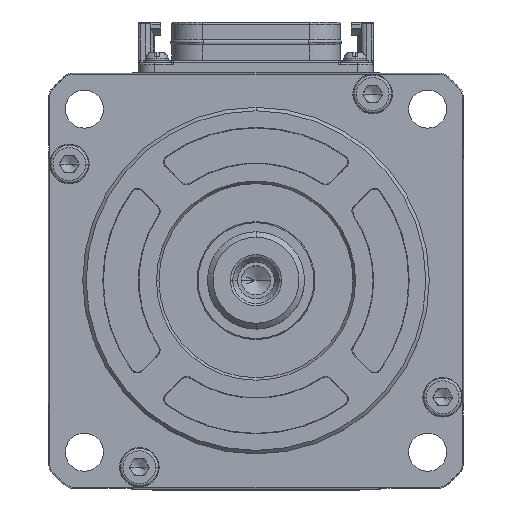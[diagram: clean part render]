
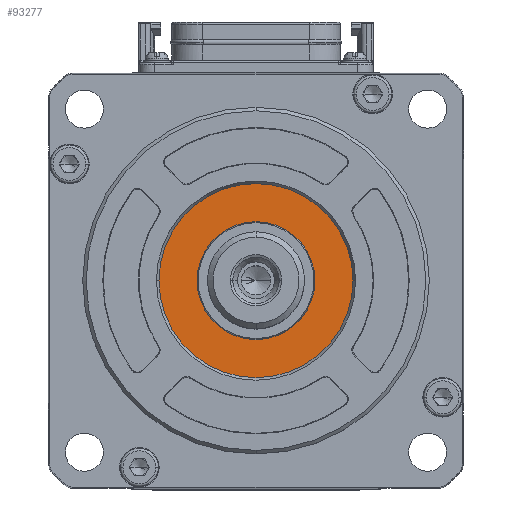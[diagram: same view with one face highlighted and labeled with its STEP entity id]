
A CAD part, top view. The second image highlights one B-rep face of the part: STEP entity #93277.
In plain terms, the highlighted planar face has unit normal (0, 0, 1).
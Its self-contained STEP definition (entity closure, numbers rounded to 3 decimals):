
#2523 = DIRECTION ( 'NONE',  ( 0., 0., 1. ) ) ;
#3001 = ORIENTED_EDGE ( 'NONE', *, *, #34028, .F. ) ;
#5702 = ORIENTED_EDGE ( 'NONE', *, *, #41449, .F. ) ;
#9406 = DIRECTION ( 'NONE',  ( 0., 1., 0. ) ) ;
#10617 = DIRECTION ( 'NONE',  ( 0., 0., 1. ) ) ;
#10918 = DIRECTION ( 'NONE',  ( 0., 1., 0. ) ) ;
#11969 = CARTESIAN_POINT ( 'NONE',  ( 0., 0., 44.347 ) ) ;
#12742 = CIRCLE ( 'NONE', #33199, 14. ) ;
#14528 = EDGE_LOOP ( 'NONE', ( #77860, #5702 ) ) ;
#15218 = CARTESIAN_POINT ( 'NONE',  ( 8.5, 0., 44.347 ) ) ;
#21716 = FACE_OUTER_BOUND ( 'NONE', #43934, .T. ) ;
#21913 = DIRECTION ( 'NONE',  ( 0., 0., -1. ) ) ;
#26629 = DIRECTION ( 'NONE',  ( 0., 1., 0. ) ) ;
#29416 = DIRECTION ( 'NONE',  ( 0., 1., 0. ) ) ;
#30073 = AXIS2_PLACEMENT_3D ( 'NONE', #11969, #56726, #26629 ) ;
#31464 = CIRCLE ( 'NONE', #48967, 8.5 ) ;
#31630 = CARTESIAN_POINT ( 'NONE',  ( -8.5, 0., 44.347 ) ) ;
#33199 = AXIS2_PLACEMENT_3D ( 'NONE', #66743, #21913, #29416 ) ;
#34028 = EDGE_CURVE ( 'NONE', #59737, #89929, #82070, .T. ) ;
#35997 = ORIENTED_EDGE ( 'NONE', *, *, #75910, .F. ) ;
#37160 = CIRCLE ( 'NONE', #30073, 8.5 ) ;
#39850 = DIRECTION ( 'NONE',  ( 0., 1., 0. ) ) ;
#40457 = FACE_BOUND ( 'NONE', #14528, .T. ) ;
#41449 = EDGE_CURVE ( 'NONE', #87321, #79188, #37160, .T. ) ;
#43934 = EDGE_LOOP ( 'NONE', ( #3001, #35997 ) ) ;
#47251 = CARTESIAN_POINT ( 'NONE',  ( 0., 0., 44.347 ) ) ;
#48967 = AXIS2_PLACEMENT_3D ( 'NONE', #47251, #2523, #9406 ) ;
#55369 = PLANE ( 'NONE',  #85003 ) ;
#56726 = DIRECTION ( 'NONE',  ( 0., 0., 1. ) ) ;
#59737 = VERTEX_POINT ( 'NONE', #89404 ) ;
#62147 = CARTESIAN_POINT ( 'NONE',  ( 0., 0., 44.347 ) ) ;
#66743 = CARTESIAN_POINT ( 'NONE',  ( 0., 0., 44.347 ) ) ;
#69368 = DIRECTION ( 'NONE',  ( 0., 0., -1. ) ) ;
#75910 = EDGE_CURVE ( 'NONE', #89929, #59737, #12742, .T. ) ;
#77335 = CARTESIAN_POINT ( 'NONE',  ( 0., -14., 44.347 ) ) ;
#77337 = EDGE_CURVE ( 'NONE', #79188, #87321, #31464, .T. ) ;
#77860 = ORIENTED_EDGE ( 'NONE', *, *, #77337, .F. ) ;
#77979 = CARTESIAN_POINT ( 'NONE',  ( 0., 0., 44.347 ) ) ;
#79188 = VERTEX_POINT ( 'NONE', #31630 ) ;
#82070 = CIRCLE ( 'NONE', #96189, 14. ) ;
#85003 = AXIS2_PLACEMENT_3D ( 'NONE', #77979, #10617, #10918 ) ;
#87321 = VERTEX_POINT ( 'NONE', #15218 ) ;
#89404 = CARTESIAN_POINT ( 'NONE',  ( 0., 14., 44.347 ) ) ;
#89929 = VERTEX_POINT ( 'NONE', #77335 ) ;
#93277 = ADVANCED_FACE ( 'NONE', ( #40457, #21716 ), #55369, .T. ) ;
#96189 = AXIS2_PLACEMENT_3D ( 'NONE', #62147, #69368, #39850 ) ;
